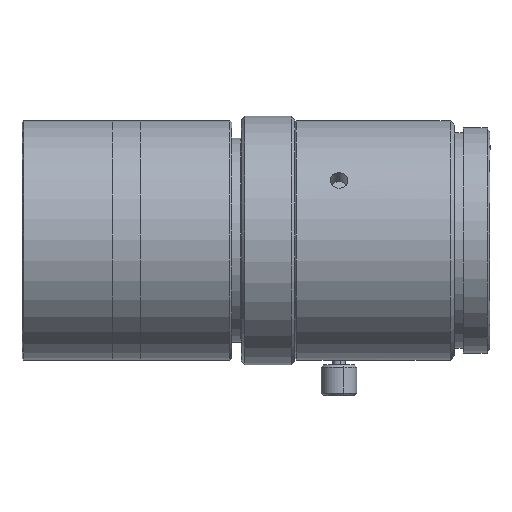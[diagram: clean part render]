
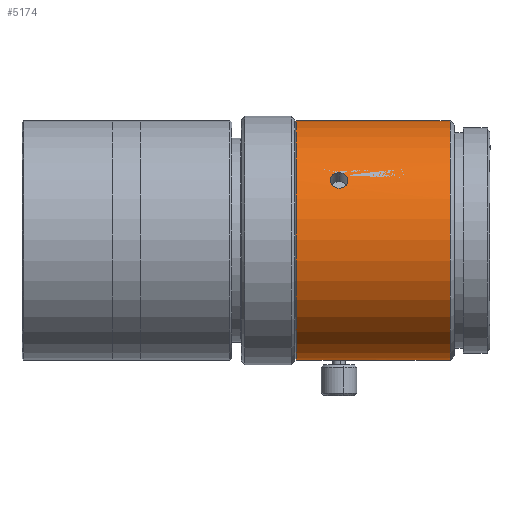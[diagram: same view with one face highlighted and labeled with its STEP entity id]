
A CAD part, top view. The second image highlights one B-rep face of the part: STEP entity #5174.
In plain terms, the highlighted cylindrical face has radius 13.5 mm (diameter 27 mm), a partial arc.
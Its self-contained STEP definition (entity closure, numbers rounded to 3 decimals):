
#21 = CARTESIAN_POINT ( 'NONE',  ( -30.023, 7.493, 11.23 ) ) ;
#125 = CARTESIAN_POINT ( 'NONE',  ( -30.526, 5.865, 12.159 ) ) ;
#167 = CARTESIAN_POINT ( 'NONE',  ( -31.4, -13.491, 0.503 ) ) ;
#225 = CARTESIAN_POINT ( 'NONE',  ( -29.727, 7.276, 11.372 ) ) ;
#278 = ORIENTED_EDGE ( 'NONE', *, *, #2356, .F. ) ;
#282 = DIRECTION ( 'NONE',  ( 0., -1., 0. ) ) ;
#502 = CARTESIAN_POINT ( 'NONE',  ( -30.658, 5.865, 12.159 ) ) ;
#540 = VERTEX_POINT ( 'NONE', #9525 ) ;
#648 = LINE ( 'NONE', #3792, #6156 ) ;
#666 = CARTESIAN_POINT ( 'NONE',  ( -30.526, 5.865, 12.159 ) ) ;
#769 = DIRECTION ( 'NONE',  ( -1., 0., 0. ) ) ;
#798 = CARTESIAN_POINT ( 'NONE',  ( -30.788, 7.576, 11.174 ) ) ;
#856 = CARTESIAN_POINT ( 'NONE',  ( -30.526, 7.597, 11.159 ) ) ;
#874 = CARTESIAN_POINT ( 'NONE',  ( -18.026, -13.5, 0. ) ) ;
#913 = FACE_BOUND ( 'NONE', #10104, .T. ) ;
#934 = VERTEX_POINT ( 'NONE', #6003 ) ;
#952 = CARTESIAN_POINT ( 'NONE',  ( -30.526, 7.597, 11.159 ) ) ;
#977 = VECTOR ( 'NONE', #9798, 1000. ) ;
#1018 = CARTESIAN_POINT ( 'NONE',  ( -75.733, 0., 0. ) ) ;
#1348 = CARTESIAN_POINT ( 'NONE',  ( -75.733, -13.5, 0. ) ) ;
#1375 = CARTESIAN_POINT ( 'NONE',  ( -18.026, 0., 0. ) ) ;
#1402 = CARTESIAN_POINT ( 'NONE',  ( -31.526, 6.863, 11.626 ) ) ;
#1469 = AXIS2_PLACEMENT_3D ( 'NONE', #1018, #4179, #282 ) ;
#1539 = CARTESIAN_POINT ( 'NONE',  ( -29.652, 6.31, 11.935 ) ) ;
#1618 = CARTESIAN_POINT ( 'NONE',  ( -31.03, 7.493, 11.23 ) ) ;
#1850 = EDGE_CURVE ( 'NONE', #9728, #2197, #2312, .T. ) ;
#2052 = LINE ( 'NONE', #3606, #977 ) ;
#2197 = VERTEX_POINT ( 'NONE', #666 ) ;
#2275 = EDGE_CURVE ( 'NONE', #4457, #540, #4828, .T. ) ;
#2291 = CARTESIAN_POINT ( 'NONE',  ( -29.526, -13.5, 0. ) ) ;
#2292 = CARTESIAN_POINT ( 'NONE',  ( -29.552, 6.976, 11.558 ) ) ;
#2312 = B_SPLINE_CURVE_WITH_KNOTS ( 'NONE', 3,
 ( #8600, #6345, #7058, #21, #5664, #225, #9357, #2292, #5446, #7202, #4064, #1539, #3131, #6281, #2456, #125 ),
 .UNSPECIFIED., .F., .F.,
 ( 4, 2, 2, 2, 2, 2, 2, 4 ),
 ( 0.003, 0.004, 0.004, 0.004, 0.005, 0.005, 0.005, 0.006 ),
 .UNSPECIFIED. ) ;
#2356 = EDGE_CURVE ( 'NONE', #6450, #934, #2906, .T. ) ;
#2401 = CARTESIAN_POINT ( 'NONE',  ( -30.395, -13.463, 1. ) ) ;
#2455 = CARTESIAN_POINT ( 'NONE',  ( -29.635, -13.491, 0.523 ) ) ;
#2456 = CARTESIAN_POINT ( 'NONE',  ( -30.262, 5.865, 12.159 ) ) ;
#2588 = EDGE_CURVE ( 'NONE', #2197, #9728, #9849, .T. ) ;
#2676 = EDGE_CURVE ( 'NONE', #7360, #934, #648, .T. ) ;
#2696 = ORIENTED_EDGE ( 'NONE', *, *, #2676, .T. ) ;
#2900 = EDGE_CURVE ( 'NONE', #6190, #540, #7643, .T. ) ;
#2906 = CIRCLE ( 'NONE', #6036, 13.5 ) ;
#3075 = CARTESIAN_POINT ( 'NONE',  ( -31.526, -13.5, 0.131 ) ) ;
#3131 = CARTESIAN_POINT ( 'NONE',  ( -29.726, 6.211, 11.987 ) ) ;
#3467 = AXIS2_PLACEMENT_3D ( 'NONE', #1375, #769, #9219 ) ;
#3556 = EDGE_CURVE ( 'NONE', #4457, #6450, #2052, .T. ) ;
#3584 = CARTESIAN_POINT ( 'NONE',  ( -31.141, 6.046, 12.071 ) ) ;
#3606 = CARTESIAN_POINT ( 'NONE',  ( -75.733, -13.5, 0. ) ) ;
#3644 = CARTESIAN_POINT ( 'NONE',  ( -31.4, 6.31, 11.935 ) ) ;
#3701 = CARTESIAN_POINT ( 'NONE',  ( -31.526, 6.637, 11.757 ) ) ;
#3792 = CARTESIAN_POINT ( 'NONE',  ( -75.733, 13.5, 0. ) ) ;
#3868 = CARTESIAN_POINT ( 'NONE',  ( -30.659, -13.463, 1. ) ) ;
#4064 = CARTESIAN_POINT ( 'NONE',  ( -29.552, 6.523, 11.82 ) ) ;
#4067 = CYLINDRICAL_SURFACE ( 'NONE', #1469, 13.5 ) ;
#4179 = DIRECTION ( 'NONE',  ( -1., 0., 0. ) ) ;
#4411 = CARTESIAN_POINT ( 'NONE',  ( -30.526, 5.865, 12.159 ) ) ;
#4457 = VERTEX_POINT ( 'NONE', #8505 ) ;
#4549 = CARTESIAN_POINT ( 'NONE',  ( -31.4, 7.182, 11.432 ) ) ;
#4621 = CARTESIAN_POINT ( 'NONE',  ( -31.326, -13.486, 0.614 ) ) ;
#4661 = DIRECTION ( 'NONE',  ( -1., 0., 0. ) ) ;
#4779 = CARTESIAN_POINT ( 'NONE',  ( -30.789, -13.465, 0.974 ) ) ;
#4828 = B_SPLINE_CURVE_WITH_KNOTS ( 'NONE', 3,
 ( #8598, #3075, #6441, #167, #4621, #5510, #10130, #4779, #3868, #2401, #7011, #5610, #5550, #2455, #7985, #2291 ),
 .UNSPECIFIED., .F., .F.,
 ( 4, 2, 2, 2, 2, 2, 2, 4 ),
 ( 0.003, 0.004, 0.004, 0.004, 0.005, 0.005, 0.005, 0.006 ),
 .UNSPECIFIED. ) ;
#5174 = ADVANCED_FACE ( 'NONE', ( #913, #7934 ), #4067, .T. ) ;
#5317 = CARTESIAN_POINT ( 'NONE',  ( -31.03, 5.979, 12.104 ) ) ;
#5337 = ORIENTED_EDGE ( 'NONE', *, *, #2900, .F. ) ;
#5344 = EDGE_CURVE ( 'NONE', #6190, #7360, #6266, .T. ) ;
#5446 = CARTESIAN_POINT ( 'NONE',  ( -29.526, 6.865, 11.625 ) ) ;
#5510 = CARTESIAN_POINT ( 'NONE',  ( -31.141, -13.477, 0.799 ) ) ;
#5550 = CARTESIAN_POINT ( 'NONE',  ( -29.912, -13.477, 0.8 ) ) ;
#5610 = CARTESIAN_POINT ( 'NONE',  ( -30.023, -13.472, 0.874 ) ) ;
#5664 = CARTESIAN_POINT ( 'NONE',  ( -29.912, 7.431, 11.271 ) ) ;
#6003 = CARTESIAN_POINT ( 'NONE',  ( -35.326, 13.5, 0. ) ) ;
#6036 = AXIS2_PLACEMENT_3D ( 'NONE', #8691, #8524, #7200 ) ;
#6100 = CARTESIAN_POINT ( 'NONE',  ( -30.788, 5.889, 12.148 ) ) ;
#6156 = VECTOR ( 'NONE', #4661, 1000. ) ;
#6190 = VERTEX_POINT ( 'NONE', #874 ) ;
#6264 = CARTESIAN_POINT ( 'NONE',  ( -30.657, 7.597, 11.159 ) ) ;
#6266 = CIRCLE ( 'NONE', #3467, 13.5 ) ;
#6281 = CARTESIAN_POINT ( 'NONE',  ( -30.003, 5.964, 12.113 ) ) ;
#6345 = CARTESIAN_POINT ( 'NONE',  ( -30.395, 7.597, 11.159 ) ) ;
#6441 = CARTESIAN_POINT ( 'NONE',  ( -31.5, -13.498, 0.262 ) ) ;
#6450 = VERTEX_POINT ( 'NONE', #9289 ) ;
#7011 = CARTESIAN_POINT ( 'NONE',  ( -30.265, -13.465, 0.974 ) ) ;
#7058 = CARTESIAN_POINT ( 'NONE',  ( -30.264, 7.576, 11.174 ) ) ;
#7200 = DIRECTION ( 'NONE',  ( 0., -1., 0. ) ) ;
#7202 = CARTESIAN_POINT ( 'NONE',  ( -29.526, 6.636, 11.757 ) ) ;
#7274 = ORIENTED_EDGE ( 'NONE', *, *, #1850, .T. ) ;
#7360 = VERTEX_POINT ( 'NONE', #9117 ) ;
#7451 = DIRECTION ( 'NONE',  ( -1., 0., 0. ) ) ;
#7643 = LINE ( 'NONE', #1348, #9433 ) ;
#7934 = FACE_OUTER_BOUND ( 'NONE', #9420, .T. ) ;
#7985 = CARTESIAN_POINT ( 'NONE',  ( -29.526, -13.5, 0.264 ) ) ;
#8466 = CARTESIAN_POINT ( 'NONE',  ( -31.5, 6.975, 11.559 ) ) ;
#8505 = CARTESIAN_POINT ( 'NONE',  ( -31.526, -13.5, 0. ) ) ;
#8524 = DIRECTION ( 'NONE',  ( -1., 0., 0. ) ) ;
#8598 = CARTESIAN_POINT ( 'NONE',  ( -31.526, -13.5, 0. ) ) ;
#8600 = CARTESIAN_POINT ( 'NONE',  ( -30.526, 7.597, 11.159 ) ) ;
#8691 = CARTESIAN_POINT ( 'NONE',  ( -35.326, 0., 0. ) ) ;
#9117 = CARTESIAN_POINT ( 'NONE',  ( -18.026, 13.5, 0. ) ) ;
#9135 = CARTESIAN_POINT ( 'NONE',  ( -31.5, 6.522, 11.821 ) ) ;
#9189 = CARTESIAN_POINT ( 'NONE',  ( -31.327, 7.275, 11.373 ) ) ;
#9219 = DIRECTION ( 'NONE',  ( 0., -1., 0. ) ) ;
#9289 = CARTESIAN_POINT ( 'NONE',  ( -35.326, -13.5, 0. ) ) ;
#9357 = CARTESIAN_POINT ( 'NONE',  ( -29.653, 7.183, 11.431 ) ) ;
#9407 = CARTESIAN_POINT ( 'NONE',  ( -31.14, 7.431, 11.271 ) ) ;
#9420 = EDGE_LOOP ( 'NONE', ( #9829, #2696, #278, #10116, #9906, #5337 ) ) ;
#9433 = VECTOR ( 'NONE', #7451, 1000. ) ;
#9525 = CARTESIAN_POINT ( 'NONE',  ( -29.526, -13.5, 0. ) ) ;
#9728 = VERTEX_POINT ( 'NONE', #952 ) ;
#9798 = DIRECTION ( 'NONE',  ( -1., 0., 0. ) ) ;
#9829 = ORIENTED_EDGE ( 'NONE', *, *, #5344, .T. ) ;
#9849 = B_SPLINE_CURVE_WITH_KNOTS ( 'NONE', 3,
 ( #4411, #502, #6100, #5317, #3584, #9870, #3644, #9135, #3701, #1402, #8466, #4549, #9189, #9407, #1618, #798, #6264, #856 ),
 .UNSPECIFIED., .F., .F.,
 ( 4, 2, 2, 2, 2, 2, 2, 2, 4 ),
 ( 0., 0., 0.001, 0.001, 0.002, 0.002, 0.002, 0.003, 0.003 ),
 .UNSPECIFIED. ) ;
#9870 = CARTESIAN_POINT ( 'NONE',  ( -31.325, 6.211, 11.987 ) ) ;
#9906 = ORIENTED_EDGE ( 'NONE', *, *, #2275, .T. ) ;
#9935 = ORIENTED_EDGE ( 'NONE', *, *, #2588, .T. ) ;
#10104 = EDGE_LOOP ( 'NONE', ( #9935, #7274 ) ) ;
#10116 = ORIENTED_EDGE ( 'NONE', *, *, #3556, .F. ) ;
#10130 = CARTESIAN_POINT ( 'NONE',  ( -31.031, -13.472, 0.873 ) ) ;
